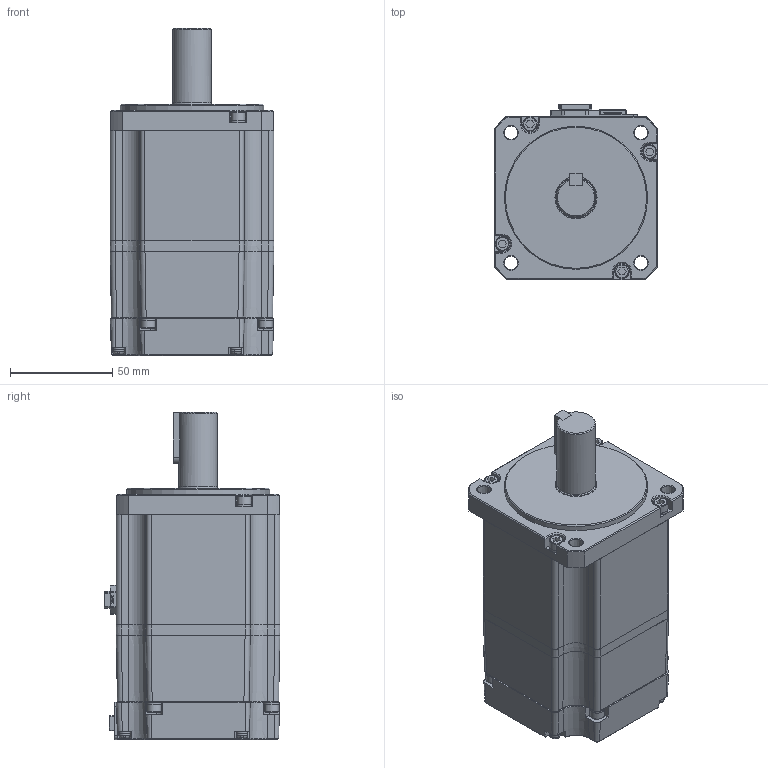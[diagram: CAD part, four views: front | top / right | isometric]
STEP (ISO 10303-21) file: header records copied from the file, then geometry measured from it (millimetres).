
FILE_DESCRIPTION (( 'STEP AP214' ), '1' );
FILE_NAME ('EM08GA002G02_Out Line(APM-EC06AM3K2).STEP', '2022-11-03T09:30:10', ( '' ), ( '' ), 'SwSTEP 2.0', 'SolidWorks 2021', '' );
FILE_SCHEMA (( 'AUTOMOTIVE_DESIGN' ));
Length unit declared in the file: millimetre
Products named in the file (1): EM08GA002G02_Out Line(APM-EC06AM3K2)
Bounding box: 80 x 85.9 x 160 mm (x, y, z)
Volume: 694565.7 mm3; surface area: 112836.7 mm2
Topology: 35 solids, 35 shells, 1580 faces, 3950 edges, 2508 vertices
Faces by surface type: plane 1126, cylinder 236, cone 144, torus 31, bspline 29, sphere 14
Full cylindrical faces by diameter (mm): 1.589 x1, 1.6 x9, 2 x2, 2.1 x2, 2.5 x8, 3 x8, 3.3 x8, 4 x12, 4.5 x8, 5.4 x8, 7 x8, 7.2 x8, 19 x1, 19.8 x1, 20.6 x1, 70 x1
Entity records: 64651 total; most frequent: CARTESIAN_POINT 10264, ORIENTED_EDGE 7488, DIRECTION 7199, EDGE_CURVE 3744, LINE 2769, VECTOR 2769, VERTEX_POINT 2461, AXIS2_PLACEMENT_3D 2215
